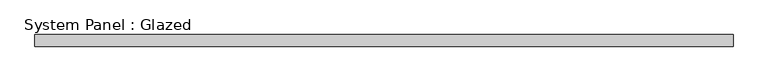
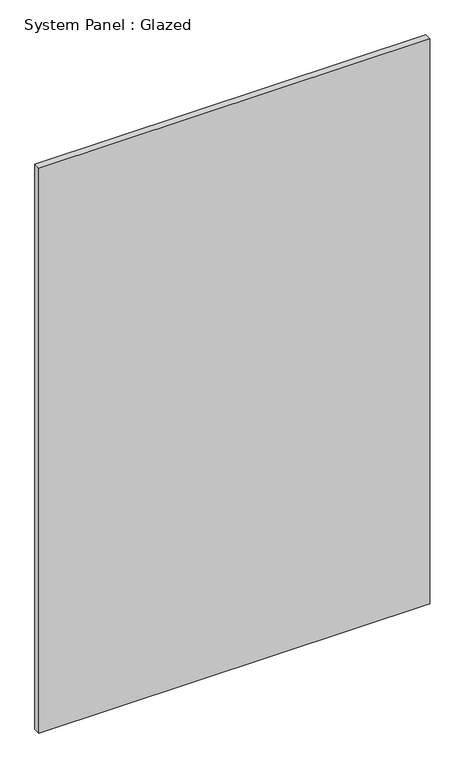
"""IFC4 building model written with IfcOpenShell, lengths in millimetres: plate geometry, System Panel : Glazed."""

import ifcopenshell
import ifcopenshell.guid

model = None  # the IFC model being written
_history = None  # IfcOwnerHistory: only IFC2X3 demands one
_inside = {}  # id of a spatial element -> (the spatial element, [elements in it])
_under = {}  # id of a project, library or spatial element -> (it, [spatial elements below it])
_declared = {}  # id of a project -> (the project, [libraries it declares])
_typed = {}  # id of a type object -> (the type object, [elements of that type])
_made_of = {}  # id of a material, layer set ... -> (it, [elements and type objects made of it])


def new_model(schema):
    """Start an empty IFC model of exactly this schema.

    Asked for "IFC4X3", IfcOpenShell would pick the latest addendum, in which some entities
    have other attributes; the version numbers below select the first issue.
    IFC2X3 requires an IfcOwnerHistory on every rooted entity: one is made here for all.
    """
    global model, _history
    if schema == "IFC4X3":
        model = ifcopenshell.file(schema_version=(4, 3, 0, 0))
    else:
        model = ifcopenshell.file(schema=schema)
    _inside.clear()
    _under.clear()
    _declared.clear()
    _typed.clear()
    _made_of.clear()
    _history = None
    if model.schema == "IFC2X3":
        org = make("IfcOrganization", Name="unknown")
        user = make(
            "IfcPersonAndOrganization",
            ThePerson=make("IfcPerson", FamilyName="unknown"),
            TheOrganization=org,
        )
        app = make(
            "IfcApplication",
            ApplicationDeveloper=org,
            Version="unknown",
            ApplicationFullName="unknown",
            ApplicationIdentifier="unknown",
        )
        _history = make(
            "IfcOwnerHistory",
            OwningUser=user,
            OwningApplication=app,
            ChangeAction="ADDED",
            CreationDate=0,
        )
    return model


def make(cls, **values):
    """One entity of the class cls with the attributes given. An attribute that is None is left unset."""
    return model.create_entity(
        cls, **{name: value for name, value in values.items() if value is not None}
    )


def rooted(cls, **values):
    """An entity with a GlobalId (a new one), such as an element, a storey or a relation."""
    return make(cls, GlobalId=ifcopenshell.guid.new(), OwnerHistory=_history, **values)


def si_unit(unit_type, name, prefix=None):
    """IfcSIUnit, for example si_unit("LENGTHUNIT", "METRE", prefix="MILLI")."""
    return make("IfcSIUnit", UnitType=unit_type, Prefix=prefix, Name=name)


def assignment(units):
    """IfcUnitAssignment: the units of a project."""
    return None if units is None else make("IfcUnitAssignment", Units=units)


def point(xyz):
    """IfcCartesianPoint."""
    return None if xyz is None else make("IfcCartesianPoint", Coordinates=xyz)


def direction(xyz):
    """IfcDirection."""
    return None if xyz is None else make("IfcDirection", DirectionRatios=xyz)


def frame(location, z_axis=None, x_axis=None):
    """IfcAxis2Placement3D, a coordinate frame: its origin and axes. An axis left out is left unset."""
    return make(
        "IfcAxis2Placement3D",
        Location=point(location),
        Axis=direction(z_axis),
        RefDirection=direction(x_axis),
    )


def origin():
    """The frame at (0, 0, 0) with its axes left unset."""
    return frame((0.0, 0.0, 0.0))


def origin_with_axes():
    """The frame at (0, 0, 0) with the z axis (0, 0, 1) and the x axis (1, 0, 0) written out."""
    return frame((0.0, 0.0, 0.0), z_axis=(0.0, 0.0, 1.0), x_axis=(1.0, 0.0, 0.0))


def place(relative_to, where):
    """IfcLocalPlacement: puts the frame where relative to a parent placement (None: the world)."""
    return make(
        "IfcLocalPlacement", PlacementRelTo=relative_to, RelativePlacement=where
    )


def context(
    kind, dimensions, precision=None, world=None, true_north=None, identifier=None
):
    """IfcGeometricRepresentationContext, for example the 3D "Model" context."""
    return make(
        "IfcGeometricRepresentationContext",
        ContextIdentifier=identifier,
        ContextType=kind,
        CoordinateSpaceDimension=dimensions,
        Precision=precision,
        WorldCoordinateSystem=world,
        TrueNorth=true_north,
    )


def project(units=None, contexts=None):
    """IfcProject with its units and contexts."""
    return rooted(
        "IfcProject",
        Name="project",
        RepresentationContexts=contexts,
        UnitsInContext=assignment(units),
    )


def spatial(cls, under=None, at=None, **own):
    """A site, building, storey or space (cls), placed at a placement, below another one or the project."""
    s = rooted(cls, ObjectPlacement=at, **own)
    if under is not None:
        _under.setdefault(under.id(), (under, []))[1].append(s)
    return s


def polyline(points):
    """IfcPolyline through the points."""
    return make("IfcPolyline", Points=[point(p) for p in points])


def outline(outer, holes=None, kind="AREA"):
    """IfcArbitraryClosedProfileDef: a profile drawn as a closed curve; with holes, ...WithVoids."""
    if holes is None:
        return make("IfcArbitraryClosedProfileDef", ProfileType=kind, OuterCurve=outer)
    return make(
        "IfcArbitraryProfileDefWithVoids",
        ProfileType=kind,
        OuterCurve=outer,
        InnerCurves=holes,
    )


def extrude(swept, where, along, depth):
    """IfcExtrudedAreaSolid: the profile swept, set in the frame where, extruded along a direction by depth."""
    return make(
        "IfcExtrudedAreaSolid",
        SweptArea=swept,
        Position=where,
        ExtrudedDirection=direction(along),
        Depth=depth,
    )


def shape(context_of_items, identifier, shape_type, items):
    """IfcShapeRepresentation: the items that make up one representation, for example the "Body"."""
    return make(
        "IfcShapeRepresentation",
        ContextOfItems=context_of_items,
        RepresentationIdentifier=identifier,
        RepresentationType=shape_type,
        Items=items,
    )


def source(mapping_origin, context_of_items, identifier, shape_type, items):
    """IfcRepresentationMap: a shape defined once, which mapped items show again and again."""
    return make(
        "IfcRepresentationMap",
        MappingOrigin=mapping_origin,
        MappedRepresentation=shape(context_of_items, identifier, shape_type, items),
    )


def transform(
    local_origin,
    x_axis=None,
    y_axis=None,
    z_axis=None,
    scale=None,
    scale2=None,
    scale3=None,
    uniform=True,
):
    """IfcCartesianTransformationOperator3D, or its non-uniform kind. x_axis, y_axis, z_axis: its Axis1, 2, 3."""
    if uniform:
        return make(
            "IfcCartesianTransformationOperator3D",
            Axis1=direction(x_axis),
            Axis2=direction(y_axis),
            LocalOrigin=point(local_origin),
            Scale=scale,
            Axis3=direction(z_axis),
        )
    return make(
        "IfcCartesianTransformationOperator3DnonUniform",
        Axis1=direction(x_axis),
        Axis2=direction(y_axis),
        LocalOrigin=point(local_origin),
        Scale=scale,
        Axis3=direction(z_axis),
        Scale2=scale2,
        Scale3=scale3,
    )


def mapped(mapping_source, mapping_target):
    """IfcMappedItem: shows the shape of a source again, moved by a transform."""
    return make(
        "IfcMappedItem", MappingSource=mapping_source, MappingTarget=mapping_target
    )


def made_of(thing, what):
    """Note that an element or type object is made of a material, layer set ...; save() writes the relation."""
    if what is not None:
        _made_of.setdefault(what.id(), (what, []))[1].append(thing)
    return thing


def element(
    cls,
    number,
    at=None,
    inside=None,
    cuts=None,
    type_object=None,
    material=None,
    context=None,
    identifier="Body",
    shape_type=None,
    held_by="IfcProductDefinitionShape",
    body=None,
    shapes=None,
    **own,
):
    """One element of the class cls, such as IfcWall. Its Tag is "e" and its number.

    at: its placement. inside: the storey or other place that contains it. cuts: it is an
    opening in that element (IfcRelVoidsElement). A single representation is given by context,
    identifier, shape_type and body (its items); several are given by shapes. held_by: the class
    of the entity that holds the representations. save() writes the other relations.
    """
    e = rooted(cls, Tag="e%d" % number, ObjectPlacement=at, **own)
    if body is not None:
        shapes = [shape(context, identifier, shape_type, body)]
    if shapes is not None:
        e.Representation = make(held_by, Representations=shapes)
    if inside is not None:
        _inside.setdefault(inside.id(), (inside, []))[1].append(e)
    if cuts is not None:
        rooted(
            "IfcRelVoidsElement", RelatingBuildingElement=cuts, RelatedOpeningElement=e
        )
    if type_object is not None:
        _typed.setdefault(type_object.id(), (type_object, []))[1].append(e)
    return made_of(e, material)


def aggregate(whole, parts):
    """IfcRelAggregates: a whole, such as a stair, and the parts it consists of."""
    return rooted("IfcRelAggregates", RelatingObject=whole, RelatedObjects=parts)


def save(model, path):
    """Write the relations noted so far, then the file.

    IfcRelAggregates (storeys below a building ...), IfcRelContainedInSpatialStructure (elements
    in a storey), IfcRelDefinesByType, IfcRelAssociatesMaterial and IfcRelDeclares: one each for
    every whole, place, type object, material and project.
    """
    for whole, parts in _under.values():
        aggregate(whole, parts)
    for where, things in _inside.values():
        rooted(
            "IfcRelContainedInSpatialStructure",
            RelatedElements=things,
            RelatingStructure=where,
        )
    for kind, things in _typed.values():
        rooted("IfcRelDefinesByType", RelatedObjects=things, RelatingType=kind)
    for what, things in _made_of.values():
        rooted("IfcRelAssociatesMaterial", RelatedObjects=things, RelatingMaterial=what)
    for by, libraries in _declared.values():
        rooted("IfcRelDeclares", RelatingContext=by, RelatedDefinitions=libraries)
    model.write(path)


def system_panel_glazed_7354c97c(model_context):
    return source(origin(), model_context, "Body", "SweptSolid", [
        extrude(outline(polyline([(738.3638889, -12.7), (-738.3638889, -12.7), (-738.3638889, 12.7), (738.3638889, 12.7), (738.3638889, -12.7)])), origin_with_axes(), (0.0, 0.0, 1.0), 2255.8510357),
    ])


if __name__ == "__main__":
    model = new_model("IFC4")
    model_context = context("Model", 3, world=origin())
    ifc_project = project(units=[si_unit("LENGTHUNIT", "METRE", prefix="MILLI")], contexts=[model_context])
    site = spatial("IfcSite", under=ifc_project)
    building = spatial("IfcBuilding", under=site)
    placement = place(None, origin())
    system_panel_glazed_shape = system_panel_glazed_7354c97c(model_context)
    element("IfcPlate", 1, ObjectType="System Panel : Glazed", at=placement, inside=building, context=model_context, shape_type="MappedRepresentation", body=[
        mapped(system_panel_glazed_shape, transform((0.0, 0.0, 0.0), x_axis=(1.0, 0.0, 0.0), y_axis=(0.0, 1.0, 0.0), z_axis=(0.0, 0.0, 1.0))),
    ])
    save(model, "model.ifc")
